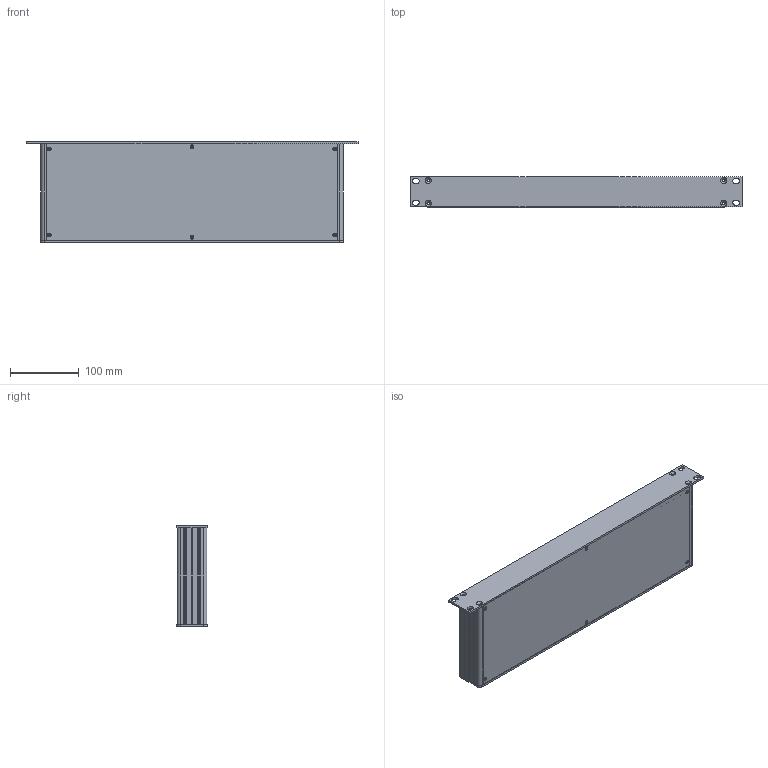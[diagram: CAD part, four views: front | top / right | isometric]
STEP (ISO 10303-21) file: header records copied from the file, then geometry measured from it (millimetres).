
FILE_DESCRIPTION (( 'STEP AP203' ), '1' );
FILE_NAME ('RM-110-14.STEP', '2018-11-29T07:26:02', ( '' ), ( '' ), 'SwSTEP 2.0', 'SolidWorks 2018', '' );
FILE_SCHEMA (( 'CONFIG_CONTROL_DESIGN' ));
Length unit declared in the file: millimetre
Products named in the file (6): 1U_arka_panel; Panel_14 cm; 1U_on_panel; RM-110-14; AP-210_14 cm; Panel_1
Assembly tree (6 placements, depth 2):
  RM-110-14
    1U_on_panel
    AP-210_14 cm  x2
    1U_arka_panel
    Panel_14 cm
    Panel_1
Bounding box: 482.6 x 43.65 x 146 mm (x, y, z)
Volume: 374879.7 mm3; surface area: 427928.1 mm2
Topology: 6 solids, 6 shells, 1142 faces, 3366 edges, 2236 vertices
Faces by surface type: plane 706, cylinder 396, cone 40
Entity records: 29793 total; most frequent: CARTESIAN_POINT 5105, ORIENTED_EDGE 5046, DIRECTION 5019, EDGE_CURVE 2523, LINE 1747, VECTOR 1747, VERTEX_POINT 1674, AXIS2_PLACEMENT_3D 1636
